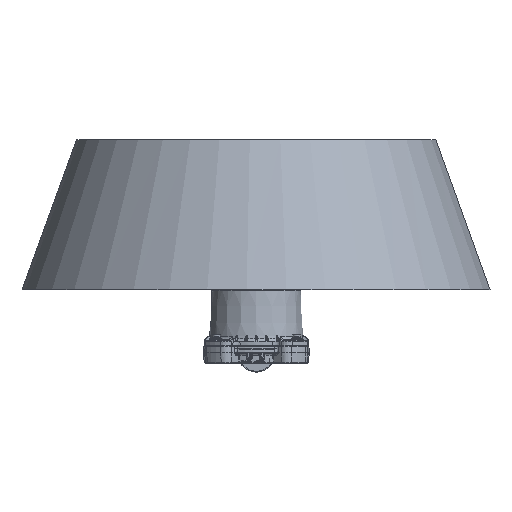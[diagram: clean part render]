
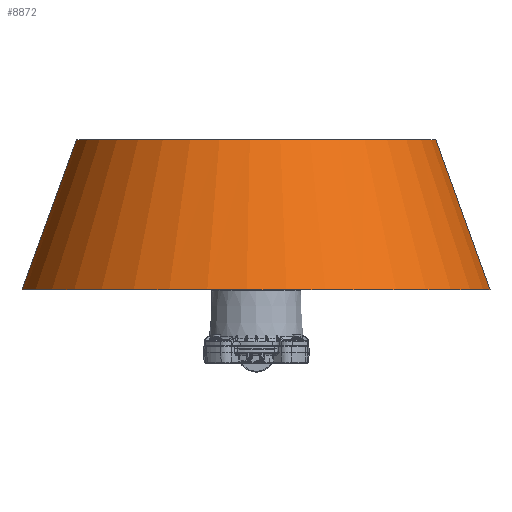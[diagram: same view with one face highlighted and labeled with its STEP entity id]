
A CAD part, front view. The second image highlights one B-rep face of the part: STEP entity #8872.
In plain terms, the highlighted face is a revolution surface.
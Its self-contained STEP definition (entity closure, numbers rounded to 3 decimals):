
#4810=SURFACE_OF_REVOLUTION('',#15866,#4814);
#4814=AXIS1_PLACEMENT('',#60847,#45601);
#5045=FACE_BOUND('',#13749,.T.);
#5046=FACE_BOUND('',#13750,.T.);
#7086=CIRCLE('',#40472,104.91);
#7087=CIRCLE('',#40473,136.736);
#8872=ADVANCED_FACE('',(#5045,#5046),#4810,.F.);
#13749=EDGE_LOOP('',(#21856));
#13750=EDGE_LOOP('',(#21857));
#15866=LINE('',#60846,#17394);
#17394=VECTOR('',#45600,93.182);
#21856=ORIENTED_EDGE('',*,*,#33493,.T.);
#21857=ORIENTED_EDGE('',*,*,#33495,.F.);
#29836=VERTEX_POINT('',#60781);
#29838=VERTEX_POINT('',#60810);
#33493=EDGE_CURVE('',#29836,#29836,#7086,.T.);
#33495=EDGE_CURVE('',#29838,#29838,#7087,.T.);
#40472=AXIS2_PLACEMENT_3D('',#60780,#45592,#45593);
#40473=AXIS2_PLACEMENT_3D('',#60809,#45596,#45597);
#45592=DIRECTION('',(0.,0.,-1.));
#45593=DIRECTION('',(-1.,0.,0.));
#45596=DIRECTION('',(0.,0.,-1.));
#45597=DIRECTION('',(-1.,0.,0.));
#45600=DIRECTION('',(0.,-0.342,0.94));
#45601=DIRECTION('',(0.,0.,-1.));
#60780=CARTESIAN_POINT('',(0.,0.,127.41));
#60781=CARTESIAN_POINT('',(-104.91,0.,127.41));
#60809=CARTESIAN_POINT('',(0.,0.,39.847));
#60810=CARTESIAN_POINT('',(-136.736,0.,39.847));
#60846=CARTESIAN_POINT('',(-6.244,136.593,39.847));
#60847=CARTESIAN_POINT('',(0.,0.,23.69));
